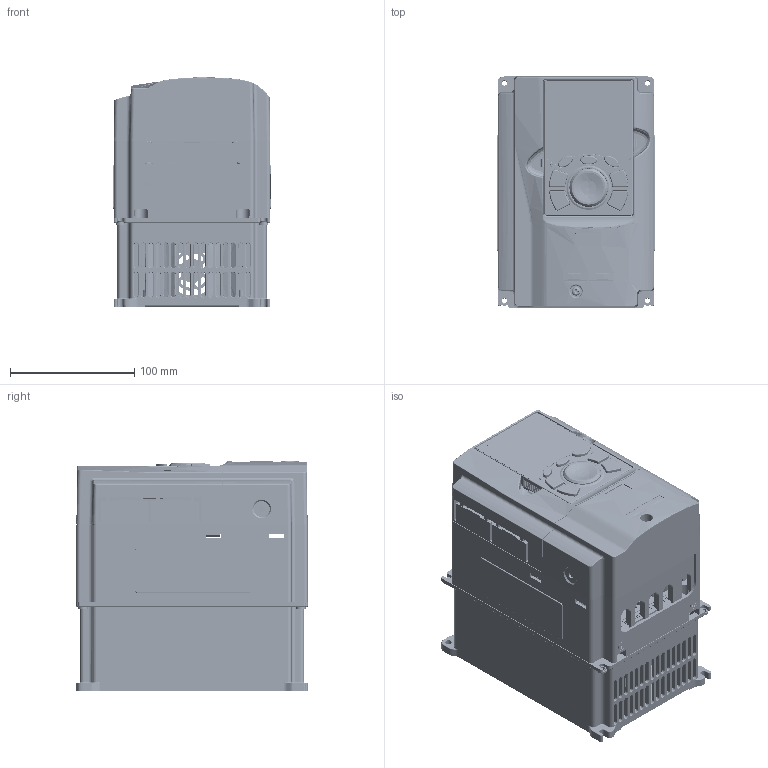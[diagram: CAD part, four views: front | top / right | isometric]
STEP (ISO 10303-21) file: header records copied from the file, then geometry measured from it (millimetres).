
FILE_DESCRIPTION((''),'2;1');
FILE_NAME('Open CASCADE Shape Model','2021-03-30T08:42:06',( 'Administrator'),(''),'Open CASCADE STEP processor 7.6', 'PRO/ENGINEER BY PARAMETRIC TECHNOLOGY CORPORATION, 2010100','Unknown' );
FILE_SCHEMA(('AUTOMOTIVE_DESIGN_CC2 { 1 2 10303 214 -1 1 5 4 }'));
Length unit declared in the file: millimetre
Products named in the file (38): GD350-2R2G-4_ASM; 80740120; 80740045; 80880095; 80740044; 80740181; 80740182; 80880486; 80740180; 80810118; 80810117; 80810117SY; 80310229; 70610028; KEY-LCD01-ZY-350_ASM; 80740163; 40810091_ASM; 80740162; 80880456; 80880456SY; 80740164; 80740164SY; KEY-LCD01-ZY-350-ES_ASM; 36002-00065; 39009-00082; 17003-02723_20180403_ASM; 17003-02723_20180403; GD350-2R2G-4-ES_ASM; 80740019; 40800083_ASM; 80380478_ASM; S-M4-ZC; 80380477_ASM; GD350-2R2G-4-FS_ASM; GB9074_4_M4X10; GB9074_4_M4X12; GB9074_4_M4X16; PM_M4X10_DCR
Assembly tree (49 placements, depth 5):
  GD350-2R2G-4_ASM
    80740120
    80740045
    80880095
    80740044
    80740181
    80740182
    80880486
    80740180
    80810118
    80810117
    80810117SY
    80310229
    70610028
    KEY-LCD01-ZY-350_ASM
      80740163
      40810091_ASM
        80740162
        80880456
        80880456SY
      80740164
      80740164SY
      KEY-LCD01-ZY-350-ES_ASM
        36002-00065
        39009-00082
        17003-02723_20180403_ASM
          17003-02723_20180403
    GD350-2R2G-4-ES_ASM
      80740019  x2
      40800083_ASM
        80380478_ASM
          S-M4-ZC  x2
        80380477_ASM
          S-M4-ZC  x2
    GD350-2R2G-4-FS_ASM
      GB9074_4_M4X10  x5
      GB9074_4_M4X12  x3
      GB9074_4_M4X16  x3
      PM_M4X10_DCR
Bounding box: 127.6 x 186 x 184.43 mm (x, y, z)
Volume: 908235.3 mm3; surface area: 906511.3 mm2
Topology: 37 solids, 37 shells, 12286 faces, 33677 edges, 21703 vertices
Faces by surface type: plane 6912, cylinder 3266, extrusion 719, torus 493, cone 465, bspline 339, sphere 92
Entity records: 412470 total; most frequent: CARTESIAN_POINT 108907, ORIENTED_EDGE 65110, DIRECTION 59741, EDGE_CURVE 32555, VECTOR 22571, LINE 21852, VERTEX_POINT 21015, AXIS2_PLACEMENT_3D 18585
